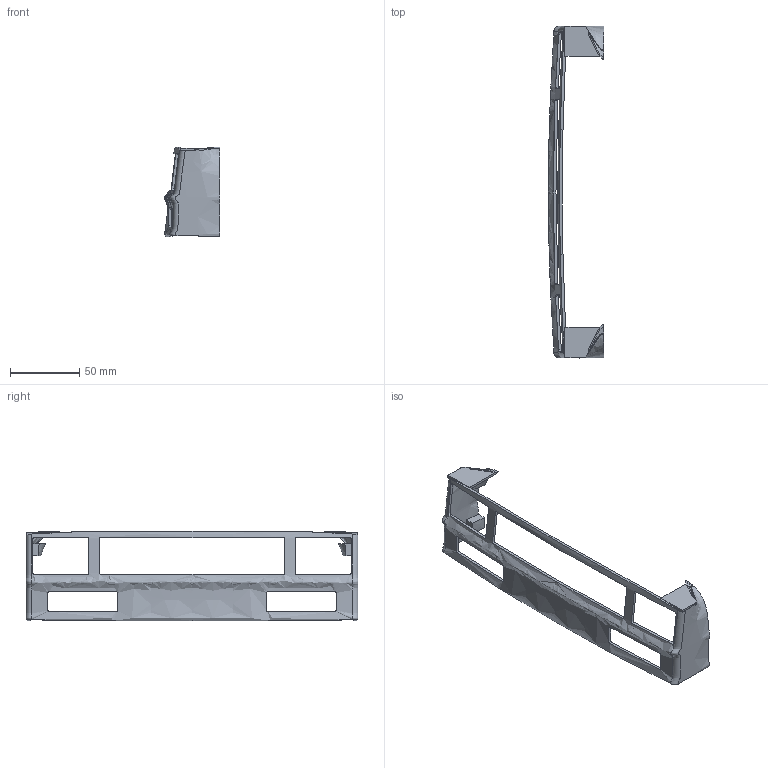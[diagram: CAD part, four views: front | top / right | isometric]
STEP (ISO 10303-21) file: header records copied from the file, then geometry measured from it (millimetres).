
FILE_DESCRIPTION(('Open CASCADE Model'),'2;1');
FILE_NAME('Open CASCADE Shape Model','2026-10-28T14:51:46',('Author'),( 'Open CASCADE'),'Open CASCADE STEP processor 7.8','Open CASCADE 7.8' ,'Unknown');
FILE_SCHEMA(('AUTOMOTIVE_DESIGN { 1 0 10303 214 1 1 1 1 }'));
Products named in the file (1): Open CASCADE STEP translator 7.8 1
Bounding box: 40 x 240.02 x 65 mm (x, y, z)
Volume: 25392.7 mm3; surface area: 32408.8 mm2
Topology: 1 solids, 1 shells, 158 faces, 443 edges, 290 vertices
Faces by surface type: bspline 118, cylinder 20, plane 20
Entity records: 125098 total; most frequent: CARTESIAN_POINT 118294, B_SPLINE_CURVE_WITH_KNOTS 907, ORIENTED_EDGE 886, PCURVE 886, DEFINITIONAL_REPRESENTATION 886, DIRECTION 504, EDGE_CURVE 443, SURFACE_CURVE 443
